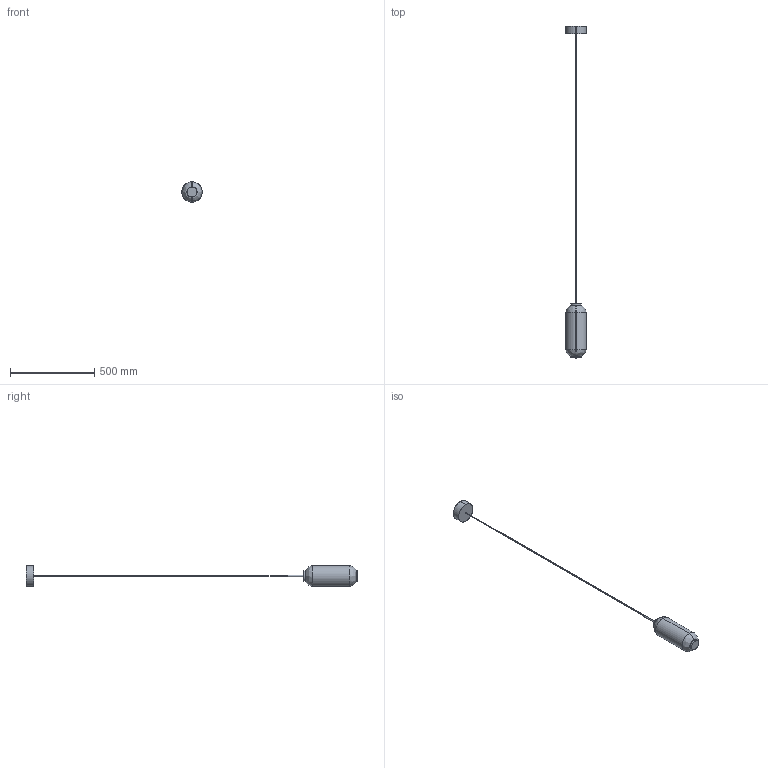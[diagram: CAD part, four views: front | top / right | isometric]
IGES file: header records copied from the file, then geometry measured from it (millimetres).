
Start section: SolidWorks IGES file using analytic representation for surfaces
Global section: file name: C:\Users\adrian\Desktop\MODELADOS USA\ELMA\CU1312S\ELMA_CU1312-S.IGS; native system: SolidWorks 2023; preprocessor: SolidWorks 2023; author: adrian; date: 260605.100917; units: inch
Bounding box: 120 x 1964.96 x 120 mm (x, y, z)
Surface area: 361862.7 mm2 (no closed solid volume)
Topology: 0 solids, 0 shells, 42 faces, 888 edges, 888 vertices
Faces by surface type: bspline 24, revolution 18
